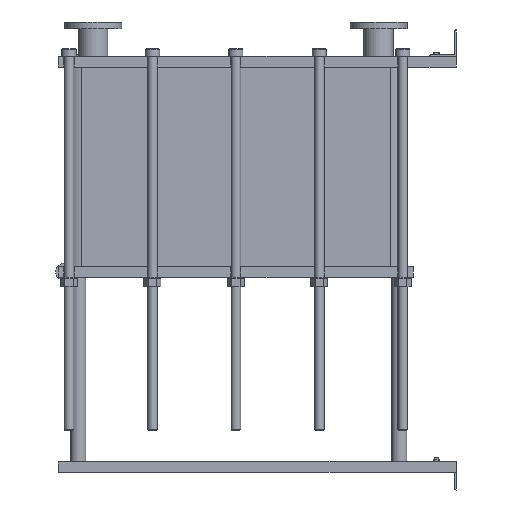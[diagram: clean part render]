
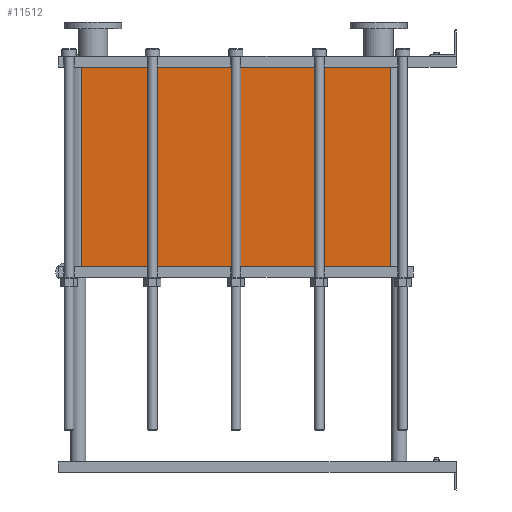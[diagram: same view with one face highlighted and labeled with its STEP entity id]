
A CAD part, left-side view. The second image highlights one B-rep face of the part: STEP entity #11512.
In plain terms, the highlighted planar face has unit normal (-1, 0, 0).
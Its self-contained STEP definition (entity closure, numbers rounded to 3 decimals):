
#1129=LINE('',#23232,#2102);
#1130=LINE('',#23236,#2103);
#1131=LINE('',#23238,#2104);
#1132=LINE('',#23239,#2105);
#2102=VECTOR('',#15887,10.);
#2103=VECTOR('',#15892,10.);
#2104=VECTOR('',#15893,10.);
#2105=VECTOR('',#15894,10.);
#3267=FACE_OUTER_BOUND('',#4093,.T.);
#4093=EDGE_LOOP('',(#10103,#10104,#10105,#10106));
#5642=VERTEX_POINT('',#23229);
#5643=VERTEX_POINT('',#23231);
#5644=VERTEX_POINT('',#23235);
#5645=VERTEX_POINT('',#23237);
#7159=EDGE_CURVE('',#5643,#5642,#1129,.T.);
#7161=EDGE_CURVE('',#5642,#5644,#1130,.T.);
#7162=EDGE_CURVE('',#5645,#5644,#1131,.T.);
#7163=EDGE_CURVE('',#5645,#5643,#1132,.T.);
#10103=ORIENTED_EDGE('',*,*,#7161,.T.);
#10104=ORIENTED_EDGE('',*,*,#7162,.F.);
#10105=ORIENTED_EDGE('',*,*,#7163,.T.);
#10106=ORIENTED_EDGE('',*,*,#7159,.T.);
#10857=PLANE('',#12751);
#11512=ADVANCED_FACE('',(#3267),#10857,.T.);
#12751=AXIS2_PLACEMENT_3D('',#23234,#15890,#15891);
#15887=DIRECTION('',(0.,0.,-1.));
#15890=DIRECTION('center_axis',(-1.,0.,0.));
#15891=DIRECTION('ref_axis',(0.,1.,0.));
#15892=DIRECTION('',(0.,-1.,0.));
#15893=DIRECTION('',(0.,0.,-1.));
#15894=DIRECTION('',(0.,1.,0.));
#23229=CARTESIAN_POINT('',(-200.,1414.,-752.1));
#23231=CARTESIAN_POINT('',(-200.,1414.,0.));
#23232=CARTESIAN_POINT('',(-200.,1414.,0.));
#23234=CARTESIAN_POINT('Origin',(-200.,248.,0.));
#23235=CARTESIAN_POINT('',(-200.,248.,-752.1));
#23236=CARTESIAN_POINT('',(-200.,539.5,-752.1));
#23237=CARTESIAN_POINT('',(-200.,248.,0.));
#23238=CARTESIAN_POINT('',(-200.,248.,0.));
#23239=CARTESIAN_POINT('',(-200.,248.,0.));
